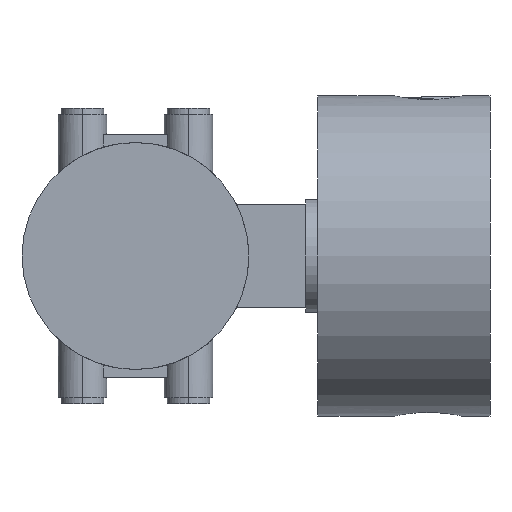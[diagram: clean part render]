
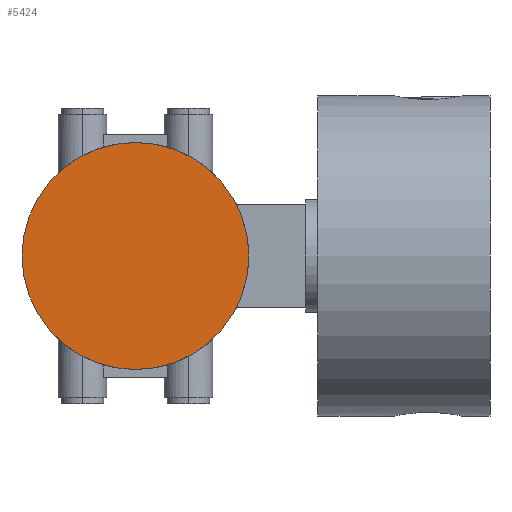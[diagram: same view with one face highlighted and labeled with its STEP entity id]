
A CAD part, front view. The second image highlights one B-rep face of the part: STEP entity #5424.
In plain terms, the highlighted planar face has unit normal (0, -1, 0).
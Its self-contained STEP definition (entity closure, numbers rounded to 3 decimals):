
#1=CARTESIAN_POINT('',(0.,-79.,0.));
#2=DIRECTION('',(0.,1.,0.));
#3=DIRECTION('',(1.,0.,0.));
#4=AXIS2_PLACEMENT_3D('',#1,#2,#3);
#6=CARTESIAN_POINT('',(0.,-79.,0.));
#7=DIRECTION('',(0.,1.,0.));
#8=DIRECTION('',(-1.,0.,0.));
#9=AXIS2_PLACEMENT_3D('',#6,#7,#8);
#4121=CARTESIAN_POINT('',(56.,-79.,0.));
#4122=CARTESIAN_POINT('',(-56.,-79.,0.));
#4123=VERTEX_POINT('',#4121);
#4124=VERTEX_POINT('',#4122);
#5413=CARTESIAN_POINT('',(0.,-79.,0.));
#5414=DIRECTION('',(0.,1.,0.));
#5415=DIRECTION('',(1.,0.,0.));
#5416=AXIS2_PLACEMENT_3D('',#5413,#5414,#5415);
#5417=PLANE('',#5416);
#5419=ORIENTED_EDGE('',*,*,#5418,.T.);
#5421=ORIENTED_EDGE('',*,*,#5420,.T.);
#5422=EDGE_LOOP('',(#5419,#5421));
#5423=FACE_OUTER_BOUND('',#5422,.F.);
#5424=ADVANCED_FACE('',(#5423),#5417,.F.);
#5=CIRCLE('',#4,56.);
#10=CIRCLE('',#9,56.);
#5418=EDGE_CURVE('',#4123,#4124,#5,.T.);
#5420=EDGE_CURVE('',#4124,#4123,#10,.T.);
